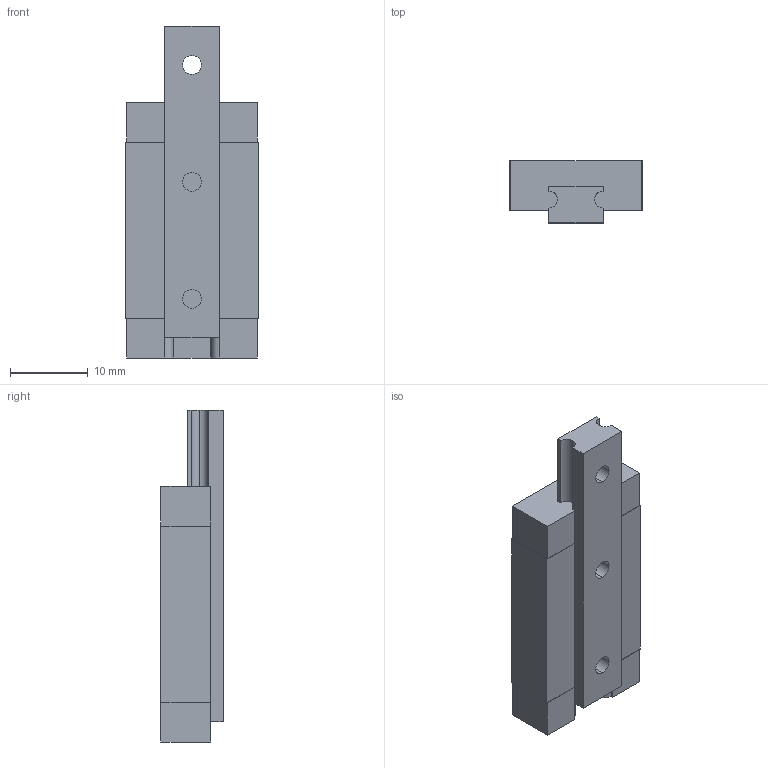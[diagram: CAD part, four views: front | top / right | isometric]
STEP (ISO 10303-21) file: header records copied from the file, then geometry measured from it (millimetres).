
FILE_DESCRIPTION (( 'STEP AP203' ), '1' );
FILE_NAME ('MCM 7L.STEP', '2018-06-19T00:53:27', ( '' ), ( '' ), 'SwSTEP 2.0', 'SolidWorks 2016', '' );
FILE_SCHEMA (( 'CONFIG_CONTROL_DESIGN' ));
Length unit declared in the file: millimetre
Products named in the file (3): MCM 7L; MCM TABLE 7 - 40; MCM BASE 7L - 40
Assembly tree (2 placements, depth 2):
  MCM 7L
    MCM TABLE 7 - 40
    MCM BASE 7L - 40
Bounding box: 17 x 8 x 42.59 mm (x, y, z)
Volume: 3972.4 mm3; surface area: 3619.2 mm2
Topology: 4 solids, 4 shells, 87 faces, 220 edges, 140 vertices
Faces by surface type: plane 47, cylinder 32, cone 8
Entity records: 2871 total; most frequent: DIRECTION 460, CARTESIAN_POINT 444, ORIENTED_EDGE 424, EDGE_CURVE 212, AXIS2_PLACEMENT_3D 156, LINE 148, VECTOR 148, VERTEX_POINT 140
